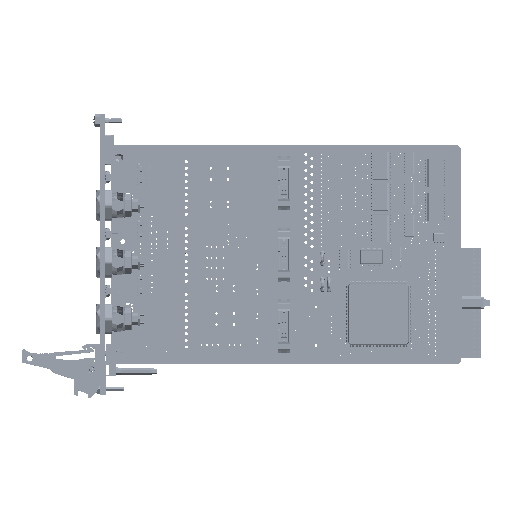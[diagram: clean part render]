
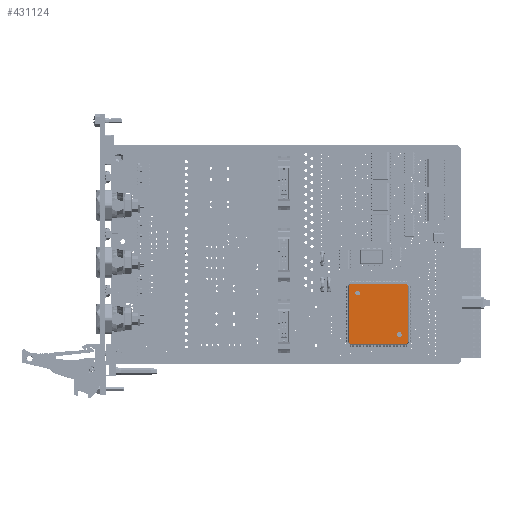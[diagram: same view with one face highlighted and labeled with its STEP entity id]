
A CAD part, top view. The second image highlights one B-rep face of the part: STEP entity #431124.
In plain terms, the highlighted planar face has unit normal (0, 0, 1) as drawn and (0, 1, 0) by its records, which use the part's own axes.
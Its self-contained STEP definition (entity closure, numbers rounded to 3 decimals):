
#4793 = VECTOR ( 'NONE', #74575, 1000. ) ;
#17324 = LINE ( 'NONE', #175407, #479812 ) ;
#22150 = DIRECTION ( 'NONE',  ( 0., 0., -1. ) ) ;
#31130 = LINE ( 'NONE', #189263, #447656 ) ;
#46185 = CARTESIAN_POINT ( 'NONE',  ( 13.544, 1.7, 12.811 ) ) ;
#50395 = VERTEX_POINT ( 'NONE', #180770 ) ;
#52141 = VECTOR ( 'NONE', #402325, 1000. ) ;
#57396 = DIRECTION ( 'NONE',  ( 0., 0., 1. ) ) ;
#58020 = DIRECTION ( 'NONE',  ( -1., 0., 0. ) ) ;
#58273 = CIRCLE ( 'NONE', #347613, 1.249 ) ;
#58386 = ORIENTED_EDGE ( 'NONE', *, *, #318301, .T. ) ;
#60470 = EDGE_CURVE ( 'NONE', #458369, #290881, #58273, .T. ) ;
#61210 = EDGE_CURVE ( 'NONE', #441604, #264076, #31130, .T. ) ;
#65581 = FACE_BOUND ( 'NONE', #457997, .T. ) ;
#65598 = VERTEX_POINT ( 'NONE', #407543 ) ;
#69504 = DIRECTION ( 'NONE',  ( 0., -1., 0. ) ) ;
#74575 = DIRECTION ( 'NONE',  ( -0.707, 0., 0.707 ) ) ;
#74761 = DIRECTION ( 'NONE',  ( 0., 0., -1. ) ) ;
#78344 = VERTEX_POINT ( 'NONE', #465483 ) ;
#84083 = AXIS2_PLACEMENT_3D ( 'NONE', #219203, #376803, #22150 ) ;
#86525 = LINE ( 'NONE', #244716, #52141 ) ;
#102474 = CARTESIAN_POINT ( 'NONE',  ( 9.544, 1.7, -9.544 ) ) ;
#103127 = EDGE_CURVE ( 'NONE', #419196, #204848, #255020, .T. ) ;
#114451 = CARTESIAN_POINT ( 'NONE',  ( -13.544, 1.7, 12.811 ) ) ;
#118413 = LINE ( 'NONE', #276518, #237289 ) ;
#122932 = ORIENTED_EDGE ( 'NONE', *, *, #380769, .T. ) ;
#139072 = CARTESIAN_POINT ( 'NONE',  ( -13.544, 1.7, -12.811 ) ) ;
#143877 = ORIENTED_EDGE ( 'NONE', *, *, #248276, .T. ) ;
#143895 = CARTESIAN_POINT ( 'NONE',  ( -9.544, 1.7, 9.544 ) ) ;
#144025 = ORIENTED_EDGE ( 'NONE', *, *, #277193, .T. ) ;
#147617 = CARTESIAN_POINT ( 'NONE',  ( -9.544, 1.7, 8.296 ) ) ;
#153909 = AXIS2_PLACEMENT_3D ( 'NONE', #102474, #260555, #418153 ) ;
#155464 = CARTESIAN_POINT ( 'NONE',  ( 27., 1.7, 0. ) ) ;
#163703 = VECTOR ( 'NONE', #57396, 1000. ) ;
#164994 = VECTOR ( 'NONE', #74761, 1000. ) ;
#170877 = VERTEX_POINT ( 'NONE', #46185 ) ;
#175407 = CARTESIAN_POINT ( 'NONE',  ( -13., 1.7, 13.544 ) ) ;
#179616 = ORIENTED_EDGE ( 'NONE', *, *, #103127, .T. ) ;
#180770 = CARTESIAN_POINT ( 'NONE',  ( 9.544, 1.7, -8.294 ) ) ;
#189263 = CARTESIAN_POINT ( 'NONE',  ( -12.678, 1.7, 13.678 ) ) ;
#199261 = ORIENTED_EDGE ( 'NONE', *, *, #351678, .T. ) ;
#203020 = AXIS2_PLACEMENT_3D ( 'NONE', #424070, #69504, #227667 ) ;
#204848 = VERTEX_POINT ( 'NONE', #213236 ) ;
#205364 = CARTESIAN_POINT ( 'NONE',  ( -12.811, 1.7, 13.544 ) ) ;
#213236 = CARTESIAN_POINT ( 'NONE',  ( -12.811, 1.7, -13.544 ) ) ;
#219203 = CARTESIAN_POINT ( 'NONE',  ( -9.544, 1.7, 9.544 ) ) ;
#223765 = PLANE ( 'NONE',  #401191 ) ;
#227302 = ORIENTED_EDGE ( 'NONE', *, *, #406181, .T. ) ;
#227667 = DIRECTION ( 'NONE',  ( 0., 0., -1. ) ) ;
#237289 = VECTOR ( 'NONE', #434127, 1000. ) ;
#244716 = CARTESIAN_POINT ( 'NONE',  ( 12.678, 1.7, 13.678 ) ) ;
#246852 = CARTESIAN_POINT ( 'NONE',  ( -9.544, 1.7, 10.793 ) ) ;
#247611 = EDGE_LOOP ( 'NONE', ( #415529, #370732 ) ) ;
#248276 = EDGE_CURVE ( 'NONE', #170877, #414021, #271755, .T. ) ;
#254412 = LINE ( 'NONE', #411997, #163703 ) ;
#255020 = LINE ( 'NONE', #412607, #316949 ) ;
#260555 = DIRECTION ( 'NONE',  ( 0., -1., 0. ) ) ;
#262576 = FACE_BOUND ( 'NONE', #247611, .T. ) ;
#264076 = VERTEX_POINT ( 'NONE', #205364 ) ;
#271575 = LINE ( 'NONE', #429144, #4793 ) ;
#271755 = LINE ( 'NONE', #429311, #164994 ) ;
#276518 = CARTESIAN_POINT ( 'NONE',  ( 12.678, 1.7, -13.678 ) ) ;
#277193 = EDGE_CURVE ( 'NONE', #414021, #419196, #118413, .T. ) ;
#290881 = VERTEX_POINT ( 'NONE', #147617 ) ;
#299985 = ORIENTED_EDGE ( 'NONE', *, *, #61210, .T. ) ;
#301820 = DIRECTION ( 'NONE',  ( 0., -1., 0. ) ) ;
#307499 = CIRCLE ( 'NONE', #84083, 1.249 ) ;
#313293 = DIRECTION ( 'NONE',  ( 0., 1., 0. ) ) ;
#316949 = VECTOR ( 'NONE', #58020, 1000. ) ;
#318301 = EDGE_CURVE ( 'NONE', #78344, #170877, #86525, .T. ) ;
#320123 = EDGE_CURVE ( 'NONE', #204848, #370666, #271575, .T. ) ;
#324362 = EDGE_CURVE ( 'NONE', #264076, #78344, #17324, .T. ) ;
#333150 = DIRECTION ( 'NONE',  ( 1., 0., 0. ) ) ;
#341382 = EDGE_CURVE ( 'NONE', #290881, #458369, #307499, .T. ) ;
#346933 = DIRECTION ( 'NONE',  ( 0.707, 0., 0.707 ) ) ;
#347350 = ORIENTED_EDGE ( 'NONE', *, *, #320123, .T. ) ;
#347613 = AXIS2_PLACEMENT_3D ( 'NONE', #143895, #301820, #459435 ) ;
#348012 = CARTESIAN_POINT ( 'NONE',  ( 13.544, 1.7, -12.811 ) ) ;
#351678 = EDGE_CURVE ( 'NONE', #50395, #65598, #425828, .T. ) ;
#360691 = ORIENTED_EDGE ( 'NONE', *, *, #324362, .T. ) ;
#370666 = VERTEX_POINT ( 'NONE', #139072 ) ;
#370732 = ORIENTED_EDGE ( 'NONE', *, *, #341382, .T. ) ;
#376803 = DIRECTION ( 'NONE',  ( 0., -1., 0. ) ) ;
#377013 = CIRCLE ( 'NONE', #153909, 1.25 ) ;
#380769 = EDGE_CURVE ( 'NONE', #370666, #441604, #254412, .T. ) ;
#387248 = CARTESIAN_POINT ( 'NONE',  ( 12.811, 1.7, -13.544 ) ) ;
#401191 = AXIS2_PLACEMENT_3D ( 'NONE', #155464, #313293, #470924 ) ;
#402325 = DIRECTION ( 'NONE',  ( 0.707, 0., -0.707 ) ) ;
#406181 = EDGE_CURVE ( 'NONE', #65598, #50395, #377013, .T. ) ;
#407543 = CARTESIAN_POINT ( 'NONE',  ( 9.544, 1.7, -10.794 ) ) ;
#411997 = CARTESIAN_POINT ( 'NONE',  ( -13.544, 1.7, 13. ) ) ;
#412607 = CARTESIAN_POINT ( 'NONE',  ( -13., 1.7, -13.544 ) ) ;
#414021 = VERTEX_POINT ( 'NONE', #348012 ) ;
#415529 = ORIENTED_EDGE ( 'NONE', *, *, #60470, .T. ) ;
#418153 = DIRECTION ( 'NONE',  ( 0., 0., -1. ) ) ;
#419196 = VERTEX_POINT ( 'NONE', #387248 ) ;
#420155 = FACE_OUTER_BOUND ( 'NONE', #445772, .T. ) ;
#424070 = CARTESIAN_POINT ( 'NONE',  ( 9.544, 1.7, -9.544 ) ) ;
#425828 = CIRCLE ( 'NONE', #203020, 1.25 ) ;
#429144 = CARTESIAN_POINT ( 'NONE',  ( -12.678, 1.7, -13.678 ) ) ;
#429311 = CARTESIAN_POINT ( 'NONE',  ( 13.544, 1.7, 13. ) ) ;
#431124 = ADVANCED_FACE ( 'NONE', ( #262576, #420155, #65581 ), #223765, .T. ) ;
#434127 = DIRECTION ( 'NONE',  ( -0.707, 0., -0.707 ) ) ;
#441604 = VERTEX_POINT ( 'NONE', #114451 ) ;
#445772 = EDGE_LOOP ( 'NONE', ( #144025, #179616, #347350, #122932, #299985, #360691, #58386, #143877 ) ) ;
#447656 = VECTOR ( 'NONE', #346933, 1000. ) ;
#457997 = EDGE_LOOP ( 'NONE', ( #199261, #227302 ) ) ;
#458369 = VERTEX_POINT ( 'NONE', #246852 ) ;
#459435 = DIRECTION ( 'NONE',  ( 0., 0., -1. ) ) ;
#465483 = CARTESIAN_POINT ( 'NONE',  ( 12.811, 1.7, 13.544 ) ) ;
#470924 = DIRECTION ( 'NONE',  ( 0., 0., 1. ) ) ;
#479812 = VECTOR ( 'NONE', #333150, 1000. ) ;
